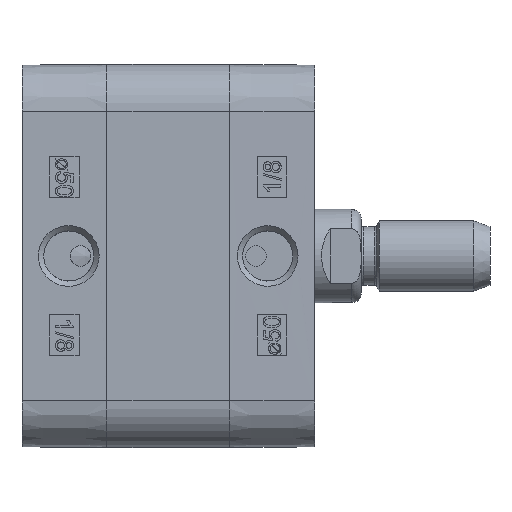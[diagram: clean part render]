
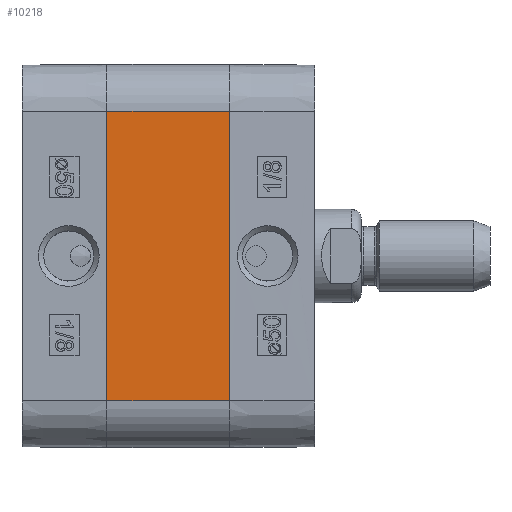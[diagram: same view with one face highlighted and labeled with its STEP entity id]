
A CAD part, left-side view. The second image highlights one B-rep face of the part: STEP entity #10218.
In plain terms, the highlighted planar face has unit normal (-1, 0, 0).
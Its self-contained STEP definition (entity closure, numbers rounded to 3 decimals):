
#5220=CARTESIAN_POINT('',(-32.75,-21.0,24.75));
#5221=VERTEX_POINT('',#5220);
#5228=CARTESIAN_POINT('',(-32.75,-21.0,-24.75));
#5229=VERTEX_POINT('',#5228);
#5230=CARTESIAN_POINT('',(-32.75,-21.0,-24.75));
#5231=DIRECTION('',(0.0,0.0,1.0));
#5232=VECTOR('',#5231,49.5);
#5233=LINE('',#5230,#5232);
#5234=EDGE_CURVE('',#5229,#5221,#5233,.T.);
#10176=CARTESIAN_POINT('',(-32.75,0.0,-24.75));
#10177=VERTEX_POINT('',#10176);
#10178=CARTESIAN_POINT('',(-32.75,0.0,-24.75));
#10179=DIRECTION('',(0.0,-1.0,0.0));
#10180=VECTOR('',#10179,21.0);
#10181=LINE('',#10178,#10180);
#10182=EDGE_CURVE('',#10177,#5229,#10181,.T.);
#10195=CARTESIAN_POINT('',(-32.75,0.0,-24.75));
#10196=DIRECTION('',(-1.0,0.0,0.0));
#10197=DIRECTION('',(0.0,0.0,1.0));
#10198=AXIS2_PLACEMENT_3D('',#10195,#10196,#10197);
#10199=PLANE('',#10198);
#10200=ORIENTED_EDGE('',*,*,#5234,.T.);
#10201=CARTESIAN_POINT('',(-32.75,0.0,24.75));
#10202=VERTEX_POINT('',#10201);
#10203=CARTESIAN_POINT('',(-32.75,0.0,24.75));
#10204=DIRECTION('',(0.0,-1.0,0.0));
#10205=VECTOR('',#10204,21.0);
#10206=LINE('',#10203,#10205);
#10207=EDGE_CURVE('',#10202,#5221,#10206,.T.);
#10208=ORIENTED_EDGE('',*,*,#10207,.F.);
#10209=CARTESIAN_POINT('',(-32.75,0.0,-24.75));
#10210=DIRECTION('',(0.0,0.0,1.0));
#10211=VECTOR('',#10210,49.5);
#10212=LINE('',#10209,#10211);
#10213=EDGE_CURVE('',#10177,#10202,#10212,.T.);
#10214=ORIENTED_EDGE('',*,*,#10213,.F.);
#10215=ORIENTED_EDGE('',*,*,#10182,.T.);
#10216=EDGE_LOOP('',(#10200,#10208,#10214,#10215));
#10217=FACE_OUTER_BOUND('',#10216,.T.);
#10218=ADVANCED_FACE('',(#10217),#10199,.T.);
